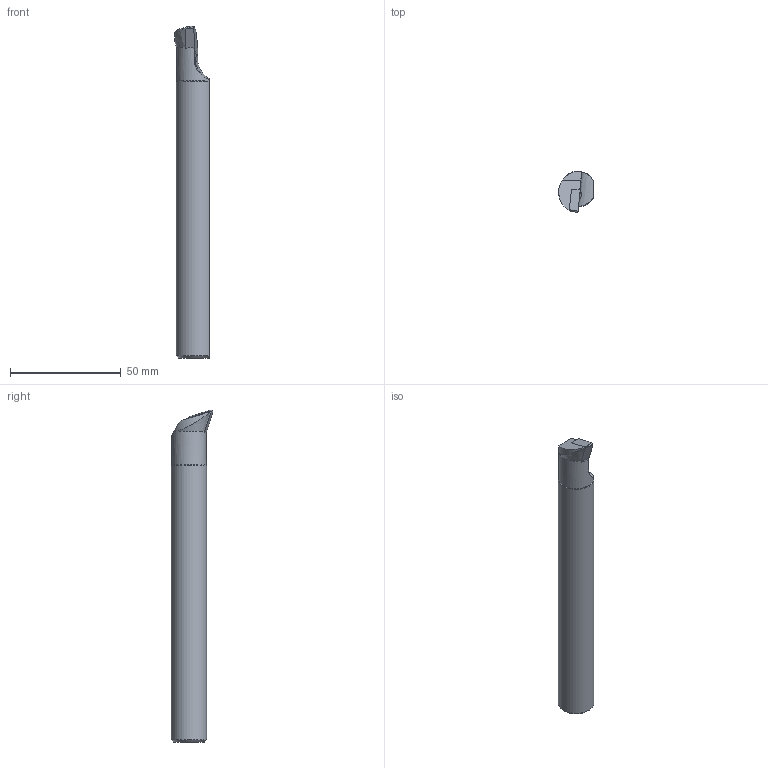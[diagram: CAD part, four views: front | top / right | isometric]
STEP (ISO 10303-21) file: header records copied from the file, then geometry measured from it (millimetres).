
FILE_DESCRIPTION(/* description */ (''),/* implementation_level */ '2;1');
FILE_NAME(/* name */ 'A16M-SDQCR-11-HAAS.stp',/* time_stamp */ '2021-09-29T10:54:50+09:00',/* author */ (''),/* organization */ (''),/* preprocessor_version */ 'ST-DEVELOPER v16',/* originating_system */ 'SIEMENS PLM Software NX 10.0',/* authorisation */ '');
FILE_SCHEMA (('AUTOMOTIVE_DESIGN { 1 0 10303 214 3 1 1 1 }'));
Length unit declared in the file: millimetre
Products named in the file (1): model2
Bounding box: 15.62 x 18.78 x 149.79 mm (x, y, z)
Volume: 25012 mm3; surface area: 9885.1 mm2
Topology: 2 solids, 2 shells, 23 faces, 55 edges, 36 vertices
Faces by surface type: plane 12, cone 5, cylinder 5, bspline 1
Full cylindrical faces by diameter (mm): 2.5 x1, 5 x1
Entity records: 773 total; most frequent: CARTESIAN_POINT 222, DIRECTION 105, ORIENTED_EDGE 104, EDGE_CURVE 52, AXIS2_PLACEMENT_3D 40, VERTEX_POINT 35, EDGE_LOOP 27, LINE 25
